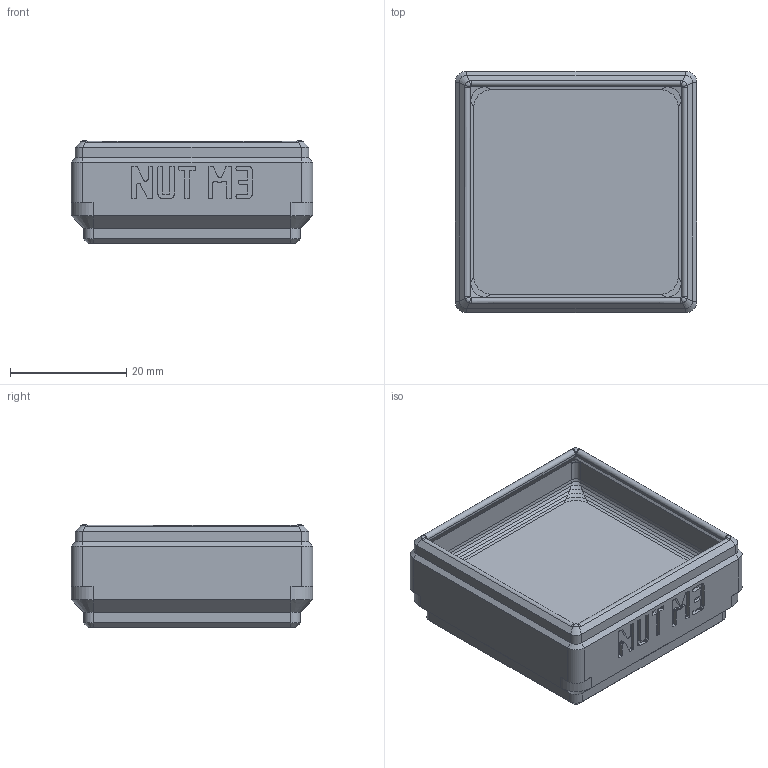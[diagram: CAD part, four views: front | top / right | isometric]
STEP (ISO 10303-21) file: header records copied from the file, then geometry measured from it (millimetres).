
FILE_DESCRIPTION(('Open CASCADE Model'),'2;1');
FILE_NAME('Open CASCADE Shape Model','2026-11-03T14:04:37',('Author'),( 'Open CASCADE'),'Open CASCADE STEP processor 8.0','build123d', 'Unknown');
FILE_SCHEMA(('AUTOMOTIVE_DESIGN { 1 0 10303 214 1 1 1 1 }'));
Length unit declared in the file: millimetre
Products named in the file (1): SOLID
Bounding box: 41.5 x 41.5 x 17.7 mm (x, y, z)
Volume: 11838.1 mm3; surface area: 10752 mm2
Topology: 1 solids, 2 shells, 640 faces, 1754 edges, 1124 vertices
Faces by surface type: plane 504, bspline 92, cylinder 32, cone 12
Entity records: 46324 total; most frequent: CARTESIAN_POINT 12099, DIRECTION 5964, LINE 4666, VECTOR 4666, ORIENTED_EDGE 3508, PCURVE 3508, DEFINITIONAL_REPRESENTATION 3508, EDGE_CURVE 1754
